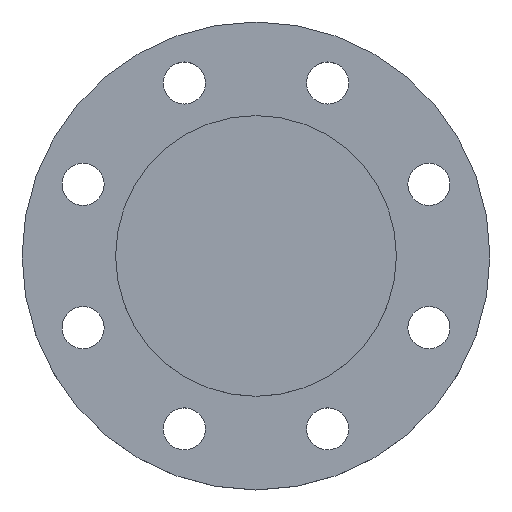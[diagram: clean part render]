
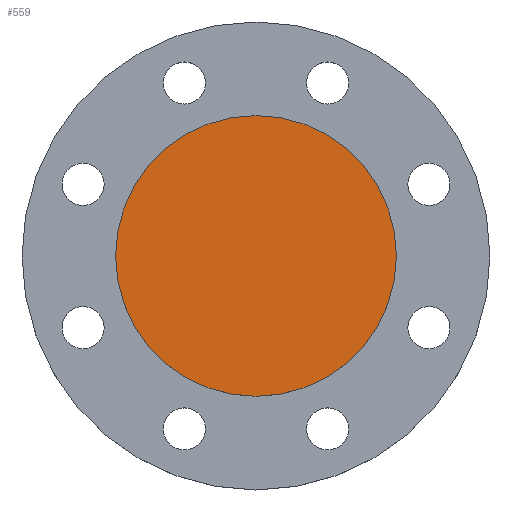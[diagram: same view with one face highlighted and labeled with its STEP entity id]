
A CAD part, top view. The second image highlights one B-rep face of the part: STEP entity #559.
In plain terms, the highlighted planar face has unit normal (0, 0, 1).
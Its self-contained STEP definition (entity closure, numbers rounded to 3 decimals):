
#10 = AXIS2_PLACEMENT_3D ( 'NONE', #785, #43, #942 ) ;
#15 = EDGE_CURVE ( 'NONE', #502, #85, #351, .T. ) ;
#16 = EDGE_LOOP ( 'NONE', ( #427, #575 ) ) ;
#43 = DIRECTION ( 'NONE',  ( 0., 0., 1. ) ) ;
#85 = VERTEX_POINT ( 'NONE', #146 ) ;
#111 = FACE_OUTER_BOUND ( 'NONE', #16, .T. ) ;
#146 = CARTESIAN_POINT ( 'NONE',  ( -60., 0., 0. ) ) ;
#170 = DIRECTION ( 'NONE',  ( 0., 0., -1. ) ) ;
#315 = AXIS2_PLACEMENT_3D ( 'NONE', #943, #170, #586 ) ;
#351 = CIRCLE ( 'NONE', #774, 60. ) ;
#365 = PLANE ( 'NONE',  #10 ) ;
#427 = ORIENTED_EDGE ( 'NONE', *, *, #1005, .F. ) ;
#440 = CIRCLE ( 'NONE', #315, 60. ) ;
#502 = VERTEX_POINT ( 'NONE', #937 ) ;
#559 = ADVANCED_FACE ( 'NONE', ( #111 ), #365, .T. ) ;
#575 = ORIENTED_EDGE ( 'NONE', *, *, #15, .F. ) ;
#578 = DIRECTION ( 'NONE',  ( -1., 0., 0. ) ) ;
#586 = DIRECTION ( 'NONE',  ( -1., 0., 0. ) ) ;
#774 = AXIS2_PLACEMENT_3D ( 'NONE', #977, #792, #578 ) ;
#785 = CARTESIAN_POINT ( 'NONE',  ( 0., 0., 0. ) ) ;
#792 = DIRECTION ( 'NONE',  ( 0., 0., -1. ) ) ;
#937 = CARTESIAN_POINT ( 'NONE',  ( 60., 0., 0. ) ) ;
#942 = DIRECTION ( 'NONE',  ( 1., 0., 0. ) ) ;
#943 = CARTESIAN_POINT ( 'NONE',  ( 0., 0., 0. ) ) ;
#977 = CARTESIAN_POINT ( 'NONE',  ( 0., 0., 0. ) ) ;
#1005 = EDGE_CURVE ( 'NONE', #85, #502, #440, .T. ) ;
